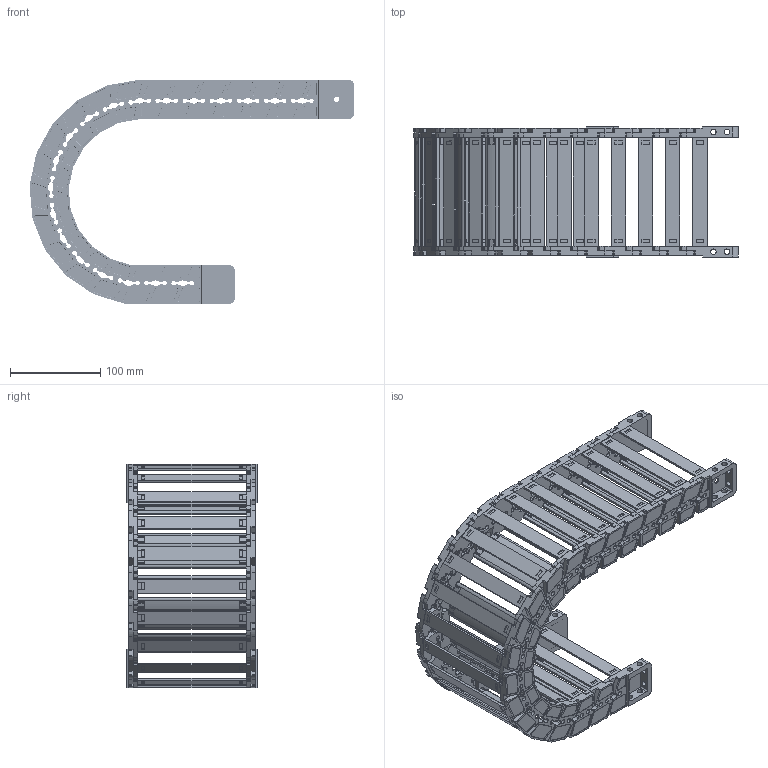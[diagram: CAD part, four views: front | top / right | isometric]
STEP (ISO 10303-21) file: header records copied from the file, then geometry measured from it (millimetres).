
FILE_DESCRIPTION((''),'2;1');
FILE_NAME('JY-35X120-R100_ASM','2025-01-05T19:28:40',('admin'),(''),'CREO PARAMETRIC BY PTC INC, 2021023','CREO PARAMETRIC BY PTC INC, 2021023','');
FILE_SCHEMA(('CONFIG_CONTROL_DESIGN'));
Length unit declared in the file: millimetre
Products named in the file (11): 35XL-L; YP; 35XL-R; ASM0001_ASM; 35-LTT-A-L; 35-LTT-A-R; 35XL-LTT-A_ASM; 35-LTT-B-L; 35-LTT-B-R; 35XL-LTT-B_ASM; JY-35X120-R100_ASM
Assembly tree (32 placements, depth 3):
  JY-35X120-R100_ASM
    ASM0001_ASM  x18
      35XL-L
      YP
      35XL-R
    35XL-LTT-A_ASM
      35-LTT-A-L
      YP  x2
      35-LTT-A-R
    35XL-LTT-B_ASM
      35-LTT-B-L
      YP  x2
      35-LTT-B-R
Bounding box: 359.13 x 144.5 x 247.81 mm (x, y, z)
Volume: 679156.2 mm3; surface area: 416220.9 mm2
Topology: 80 solids, 80 shells, 6520 faces, 19542 edges, 13190 vertices
Faces by surface type: plane 3688, cylinder 2148, cone 418, extrusion 152, bspline 114
Entity records: 27866 total; most frequent: CARTESIAN_POINT 6165, ORIENTED_EDGE 4640, DIRECTION 4359, EDGE_CURVE 2320, VERTEX_POINT 1568, AXIS2_PLACEMENT_3D 1471, VECTOR 1417, LINE 1401
